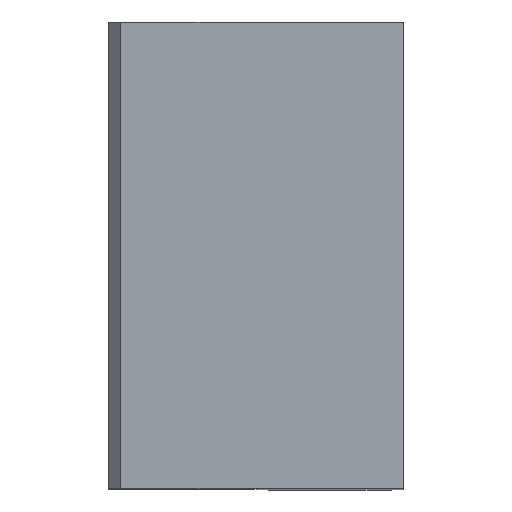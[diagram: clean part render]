
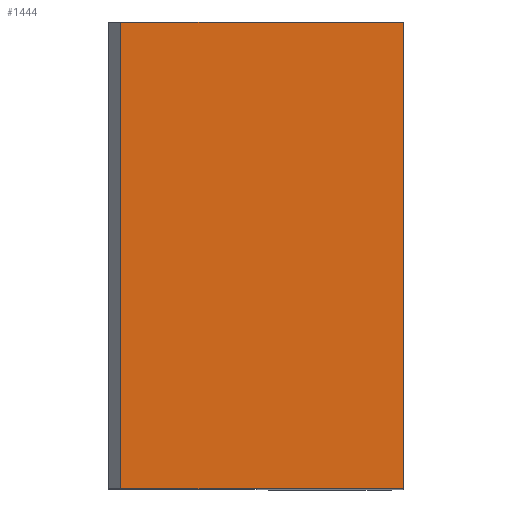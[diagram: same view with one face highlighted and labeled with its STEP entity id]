
A CAD part, top view. The second image highlights one B-rep face of the part: STEP entity #1444.
In plain terms, the highlighted planar face has unit normal (0, 0, 1).
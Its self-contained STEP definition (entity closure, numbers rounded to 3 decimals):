
#229 = VERTEX_POINT ( 'NONE', #1969 ) ;
#236 = AXIS2_PLACEMENT_3D ( 'NONE', #1519, #494, #421 ) ;
#313 = ORIENTED_EDGE ( 'NONE', *, *, #2309, .T. ) ;
#357 = FACE_OUTER_BOUND ( 'NONE', #1121, .T. ) ;
#421 = DIRECTION ( 'NONE',  ( -1., 0., 0. ) ) ;
#422 = EDGE_CURVE ( 'NONE', #1787, #229, #988, .T. ) ;
#467 = CARTESIAN_POINT ( 'NONE',  ( 34.736, -3.307, 12. ) ) ;
#494 = DIRECTION ( 'NONE',  ( 0., 0., -1. ) ) ;
#511 = LINE ( 'NONE', #467, #1180 ) ;
#534 = VECTOR ( 'NONE', #2012, 1000. ) ;
#834 = VECTOR ( 'NONE', #899, 1000. ) ;
#835 = EDGE_CURVE ( 'NONE', #229, #959, #2334, .T. ) ;
#899 = DIRECTION ( 'NONE',  ( 0., 1., 0. ) ) ;
#959 = VERTEX_POINT ( 'NONE', #2249 ) ;
#975 = CARTESIAN_POINT ( 'NONE',  ( 28.986, 6.193, 12. ) ) ;
#988 = LINE ( 'NONE', #975, #834 ) ;
#1014 = EDGE_CURVE ( 'NONE', #2135, #1787, #511, .T. ) ;
#1121 = EDGE_LOOP ( 'NONE', ( #1570, #1450, #313, #1733 ) ) ;
#1180 = VECTOR ( 'NONE', #1419, 1000. ) ;
#1268 = CARTESIAN_POINT ( 'NONE',  ( 28.986, -3.307, 12. ) ) ;
#1307 = CARTESIAN_POINT ( 'NONE',  ( 34.486, 15.693, 12. ) ) ;
#1364 = CARTESIAN_POINT ( 'NONE',  ( 40.486, -3.307, 12. ) ) ;
#1419 = DIRECTION ( 'NONE',  ( -1., 0., 0. ) ) ;
#1427 = VECTOR ( 'NONE', #2076, 1000. ) ;
#1444 = ADVANCED_FACE ( 'NONE', ( #357 ), #2289, .F. ) ;
#1450 = ORIENTED_EDGE ( 'NONE', *, *, #1014, .F. ) ;
#1519 = CARTESIAN_POINT ( 'NONE',  ( 40.486, -3.307, 12. ) ) ;
#1570 = ORIENTED_EDGE ( 'NONE', *, *, #422, .F. ) ;
#1733 = ORIENTED_EDGE ( 'NONE', *, *, #835, .F. ) ;
#1736 = LINE ( 'NONE', #2314, #534 ) ;
#1787 = VERTEX_POINT ( 'NONE', #1268 ) ;
#1969 = CARTESIAN_POINT ( 'NONE',  ( 28.986, 15.693, 12. ) ) ;
#2012 = DIRECTION ( 'NONE',  ( 0., 1., 0. ) ) ;
#2076 = DIRECTION ( 'NONE',  ( 1., 0., 0. ) ) ;
#2135 = VERTEX_POINT ( 'NONE', #1364 ) ;
#2249 = CARTESIAN_POINT ( 'NONE',  ( 40.486, 15.693, 12. ) ) ;
#2289 = PLANE ( 'NONE',  #236 ) ;
#2309 = EDGE_CURVE ( 'NONE', #2135, #959, #1736, .T. ) ;
#2314 = CARTESIAN_POINT ( 'NONE',  ( 40.486, 6.193, 12. ) ) ;
#2334 = LINE ( 'NONE', #1307, #1427 ) ;
